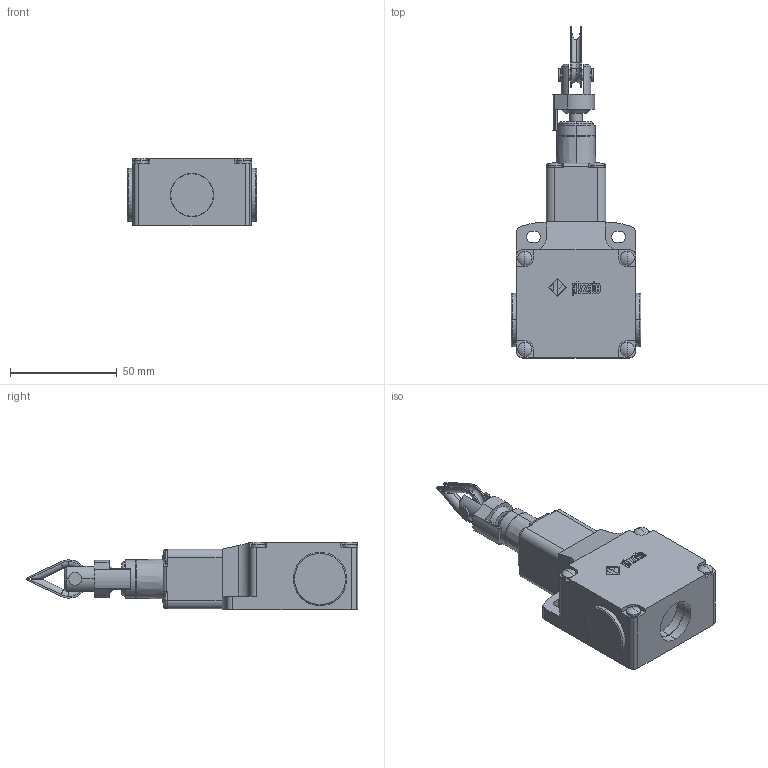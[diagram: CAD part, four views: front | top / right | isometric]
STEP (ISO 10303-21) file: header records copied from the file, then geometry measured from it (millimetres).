
FILE_DESCRIPTION (( 'STEP AP214' ), '1' );
FILE_NAME ('ZF_STEP_FL_x79_A10.step', '2014-04-10T09:07:05', ( 'utente' ), ( 'Microsoft' ), 'SwSTEP 2.0', 'SolidWorks 2013', '' );
FILE_SCHEMA (( 'AUTOMOTIVE_DESIGN' ));
Length unit declared in the file: millimetre
Products named in the file (7): ZF_STEP_FL_x79_A10; ZF_STEP_VF_T79_A10; Pizzato_Redance_T78-83-84; Pizzato_Tirante_T78_T79; Pizzato_Supporto_T78-T79_T79; Pizzato_Tappo_Protezione_PG13_M20_PG13; Pizzato_Custodia_FL
Assembly tree (7 placements, depth 3):
  ZF_STEP_FL_x79_A10
    Pizzato_Custodia_FL
    Pizzato_Tappo_Protezione_PG13_M20_PG13  x2
    ZF_STEP_VF_T79_A10
      Pizzato_Supporto_T78-T79_T79
      Pizzato_Tirante_T78_T79
      Pizzato_Redance_T78-83-84
Bounding box: 60.8 x 155.8 x 31.8 mm (x, y, z)
Volume: 129084.9 mm3; surface area: 30132.3 mm2
Topology: 6 solids, 6 shells, 536 faces, 1364 edges, 900 vertices
Faces by surface type: plane 285, cylinder 137, bspline 73, torus 18, sphere 16, cone 7
Entity records: 19722 total; most frequent: CARTESIAN_POINT 6891, ORIENTED_EDGE 2696, DIRECTION 2428, EDGE_CURVE 1348, VERTEX_POINT 890, VECTOR 870, LINE 870, AXIS2_PLACEMENT_3D 779
